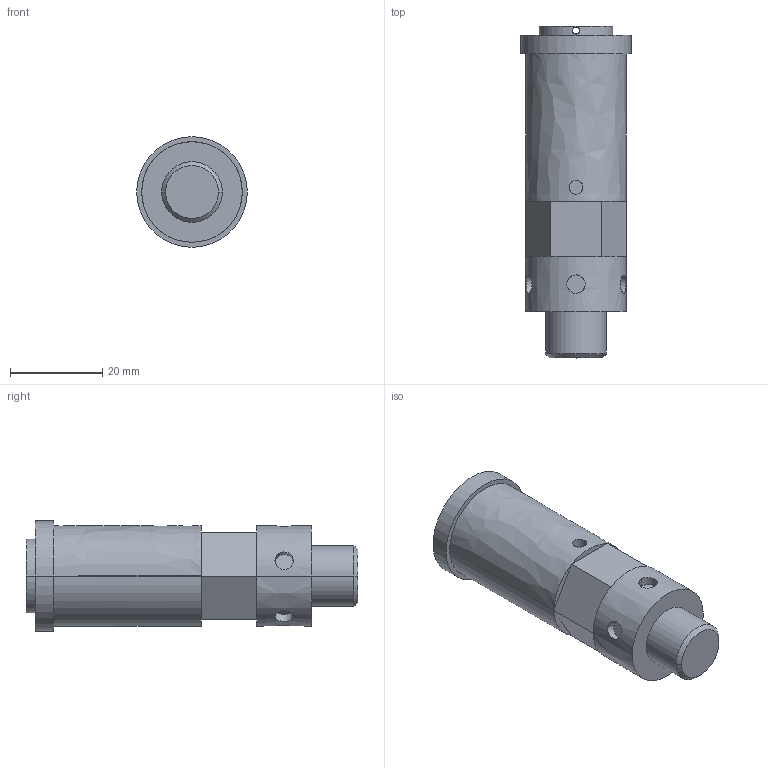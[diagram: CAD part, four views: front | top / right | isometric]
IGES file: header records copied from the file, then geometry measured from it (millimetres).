
Start section:  PTC IGES file: r412007525.igs
Global section: file name: r412007525.igs; native system: Creo Parametric by PTC Inc.; preprocessor: 2016260; author: hug2hc; organization: Unknown; date: 20170404.092549; units: millimetre
Bounding box: 24 x 72 x 24 mm (x, y, z)
Surface area: 5846.4 mm2 (no closed solid volume)
Topology: 0 solids, 0 shells, 72 faces, 308 edges, 308 vertices
Faces by surface type: bspline 42, revolution 30
